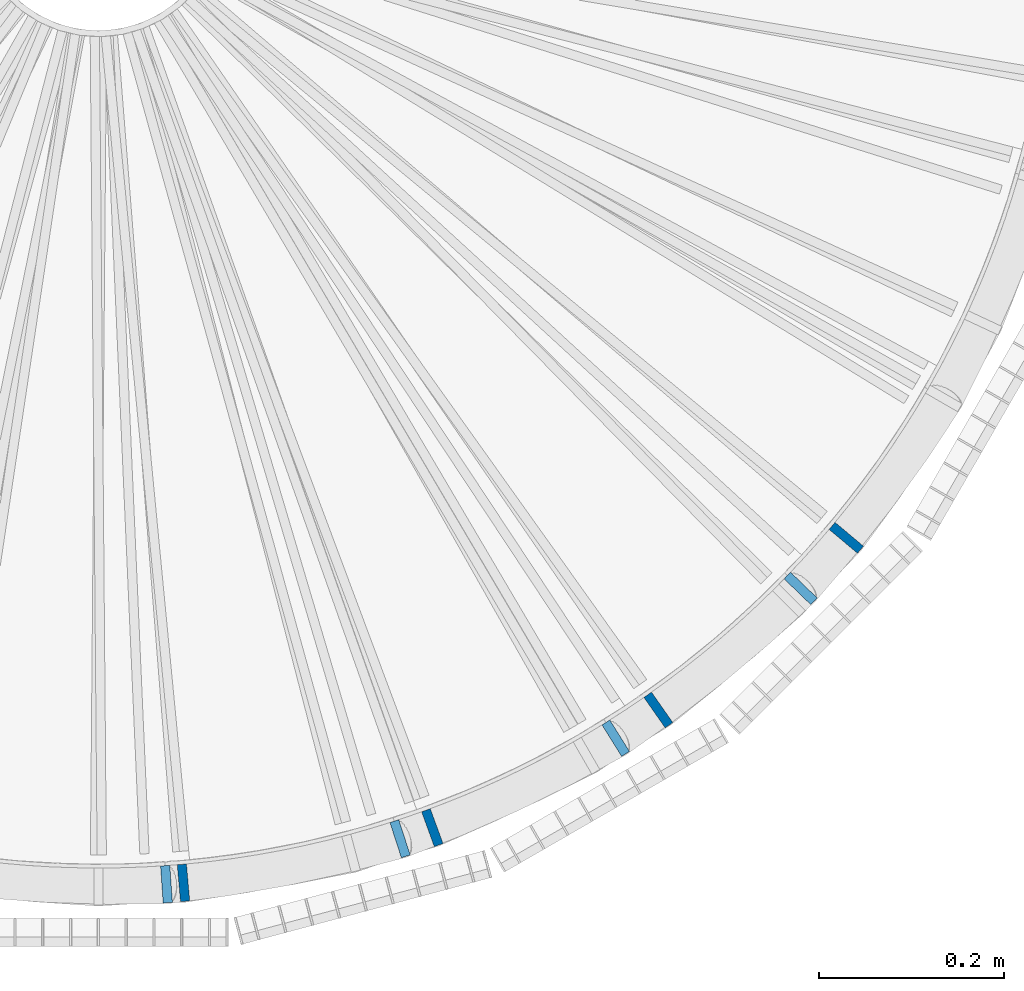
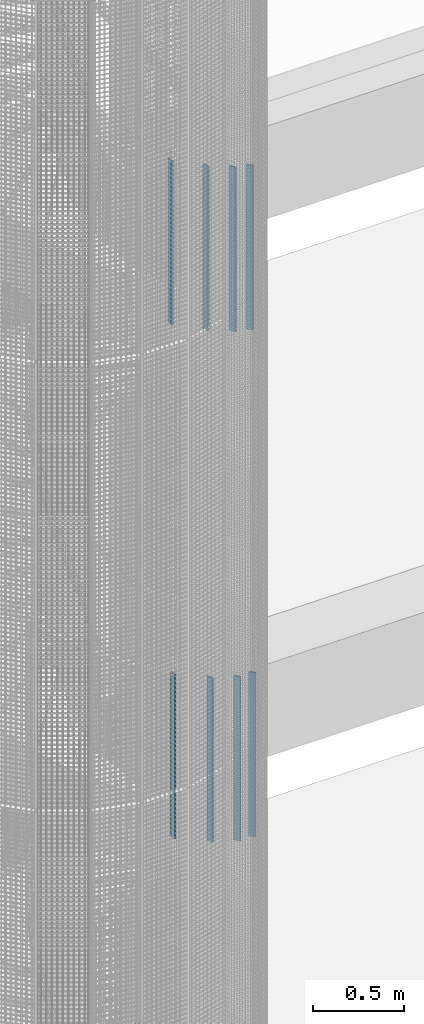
# One storey, part 41 of 1183: 8 columns, 8 elements without a shape of their own.
"""IFC2X3 building model written with IfcOpenShell, lengths in millimetres."""

from ifc_helpers import new_model, si_unit, frame, origin_with_axes, origin_2d_with_axis, place, context, subcontext, project, spatial, rectangle, extrude, material, type_object, element, aggregate, save


model = new_model("IFC2X3")

# Units and contexts
model_context = context("Model", 3, precision=1e-05, world=origin_with_axes())
body_context = subcontext(model_context, "Body", "Model", "MODEL_VIEW")
ifc_project = project(units=[si_unit("LENGTHUNIT", "METRE", prefix="MILLI"), si_unit("AREAUNIT", "SQUARE_METRE"), si_unit("VOLUMEUNIT", "CUBIC_METRE"), si_unit("MASSUNIT", "GRAM", prefix="KILO"), si_unit("TIMEUNIT", "SECOND"), si_unit("PLANEANGLEUNIT", "RADIAN"), si_unit("SOLIDANGLEUNIT", "STERADIAN"), si_unit("THERMODYNAMICTEMPERATUREUNIT", "DEGREE_CELSIUS"), si_unit("LUMINOUSINTENSITYUNIT", "LUMEN")], contexts=[model_context])

# Site, building, storey
site_placement = place(None, origin_with_axes())
site = spatial("IfcSite", under=ifc_project, at=site_placement, Name="Undefined", CompositionType="ELEMENT")
building_placement = place(site_placement, origin_with_axes())
building = spatial("IfcBuilding", under=site, at=building_placement, Name="Undefined", CompositionType="ELEMENT")
storey_placement = place(building_placement, origin_with_axes())
storey = spatial("IfcBuildingStorey", under=building, at=storey_placement, Name="Undefined", CompositionType="ELEMENT", Elevation=0.0)

# Assembly, column
assembly_1_placement = place(storey_placement, origin_with_axes())
assembly_1 = element("IfcElementAssembly", 1, at=assembly_1_placement, inside=storey, Name="MONTANT", AssemblyPlace="NOTDEFINED", PredefinedType="NOTDEFINED")
ifc_material = material(Name="STEEL/S235JR")
column_type = type_object("IfcColumnType", Name="PL10*40", PredefinedType="NOTDEFINED")
column_1_placement = place(assembly_1_placement, frame((22358.1841495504, -732.169922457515, 14629.12), z_axis=(0.0, 0.0, 1.0), x_axis=(-0.719339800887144, 0.694658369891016, 0.0)))
column_1 = element("IfcColumn", 2, at=column_1_placement, type_object=column_type, material=ifc_material, Name="MONTANT", context=body_context, shape_type="SweptSolid", body=[
    extrude(rectangle(XDim=10.0, YDim=40.0, at=origin_2d_with_axis()), frame((0.0, 0.0, 1100.0), z_axis=(0.0, 0.0, -1.0), x_axis=(0.0, 1.0, 0.0)), (0.0, 0.0, 1.0), 1100.0),
])
aggregate(assembly_1, [column_1])

assembly_2_placement = place(storey_placement, origin_with_axes())
assembly_2 = element("IfcElementAssembly", 3, at=assembly_2_placement, inside=storey, Name="MONTANT", AssemblyPlace="NOTDEFINED", PredefinedType="NOTDEFINED")
column_2_placement = place(assembly_2_placement, frame((21925.7039120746, -1002.41356818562, 14942.16), z_axis=(0.0, 0.0, 1.0), x_axis=(-0.30901699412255, 0.951056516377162, 0.0)))
column_2 = element("IfcColumn", 4, at=column_2_placement, type_object=column_type, material=ifc_material, Name="MONTANT", context=body_context, shape_type="SweptSolid", body=[
    extrude(rectangle(XDim=10.0, YDim=40.0, at=origin_2d_with_axis()), frame((0.0, 0.0, 1100.0), z_axis=(0.0, 0.0, -1.0), x_axis=(0.0, 1.0, 0.0)), (0.0, 0.0, 1.0), 1100.0),
])
aggregate(assembly_2, [column_2])

assembly_3_placement = place(storey_placement, origin_with_axes())
assembly_3 = element("IfcElementAssembly", 5, at=assembly_3_placement, inside=storey, Name="MONTANT", AssemblyPlace="NOTDEFINED", PredefinedType="NOTDEFINED")
column_3_placement = place(assembly_3_placement, frame((22158.5349044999, -893.842693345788, 14785.64), z_axis=(0.0, 0.0, 1.0), x_axis=(-0.529919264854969, 0.848048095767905, 0.0)))
column_3 = element("IfcColumn", 6, at=column_3_placement, type_object=column_type, material=ifc_material, Name="MONTANT", context=body_context, shape_type="SweptSolid", body=[
    extrude(rectangle(XDim=10.0, YDim=40.0, at=origin_2d_with_axis()), frame((0.0, 0.0, 1100.0), z_axis=(0.0, 0.0, -1.0), x_axis=(0.0, 1.0, 0.0)), (0.0, 0.0, 1.0), 1100.0),
])
aggregate(assembly_3, [column_3])

assembly_4_placement = place(storey_placement, origin_with_axes())
assembly_4 = element("IfcElementAssembly", 7, at=assembly_4_placement, inside=storey, Name="MONTANT", AssemblyPlace="NOTDEFINED", PredefinedType="NOTDEFINED")
column_4_placement = place(assembly_4_placement, frame((21673.523323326, -1051.43250896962, 15098.68), z_axis=(0.0, 0.0, 1.0), x_axis=(-0.0697564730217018, 0.997564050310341, 0.0)))
column_4 = element("IfcColumn", 8, at=column_4_placement, type_object=column_type, material=ifc_material, Name="MONTANT", context=body_context, shape_type="SweptSolid", body=[
    extrude(rectangle(XDim=10.0, YDim=40.0, at=origin_2d_with_axis()), frame((0.0, 0.0, 1100.0), z_axis=(0.0, 0.0, -1.0), x_axis=(0.0, 1.0, 0.0)), (0.0, 0.0, 1.0), 1100.0),
])
aggregate(assembly_4, [column_4])

assembly_5_placement = place(storey_placement, origin_with_axes())
assembly_5 = element("IfcElementAssembly", 9, at=assembly_5_placement, inside=storey, Name="MONTANT", AssemblyPlace="NOTDEFINED", PredefinedType="NOTDEFINED")
column_5_placement = place(assembly_5_placement, frame((22204.5495639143, -863.386254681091, 11342.16), z_axis=(0.0, 0.0, 1.0), x_axis=(-0.573576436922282, 0.819152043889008, 0.0)))
column_5 = element("IfcColumn", 10, at=column_5_placement, type_object=column_type, material=ifc_material, Name="MONTANT", context=body_context, shape_type="SweptSolid", body=[
    extrude(rectangle(XDim=10.0, YDim=40.0, at=origin_2d_with_axis()), frame((0.0, 0.0, 1100.0), z_axis=(0.0, 0.0, -1.0), x_axis=(0.0, 1.0, 0.0)), (0.0, 0.0, 1.0), 1100.0),
])
aggregate(assembly_5, [column_5])

assembly_6_placement = place(storey_placement, origin_with_axes())
assembly_6 = element("IfcElementAssembly", 11, at=assembly_6_placement, inside=storey, Name="MONTANT", AssemblyPlace="NOTDEFINED", PredefinedType="NOTDEFINED")
column_6_placement = place(assembly_6_placement, frame((22407.4108430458, -677.498140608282, 11185.64), z_axis=(0.0, 0.0, 1.0), x_axis=(-0.766044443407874, 0.642787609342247, 0.0)))
column_6 = element("IfcColumn", 12, at=column_6_placement, type_object=column_type, material=ifc_material, Name="MONTANT", context=body_context, shape_type="SweptSolid", body=[
    extrude(rectangle(XDim=10.0, YDim=40.0, at=origin_2d_with_axis()), frame((0.0, 0.0, 1100.0), z_axis=(0.0, 0.0, -1.0), x_axis=(0.0, 1.0, 0.0)), (0.0, 0.0, 1.0), 1100.0),
])
aggregate(assembly_6, [column_6])

assembly_7_placement = place(storey_placement, origin_with_axes())
assembly_7 = element("IfcElementAssembly", 13, at=assembly_7_placement, inside=storey, Name="MONTANT", AssemblyPlace="NOTDEFINED", PredefinedType="NOTDEFINED")
column_7_placement = place(assembly_7_placement, frame((21960.4892310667, -990.436022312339, 11498.68), z_axis=(0.0, 0.0, 1.0), x_axis=(-0.342020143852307, 0.939692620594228, 0.0)))
column_7 = element("IfcColumn", 14, at=column_7_placement, type_object=column_type, material=ifc_material, Name="MONTANT", context=body_context, shape_type="SweptSolid", body=[
    extrude(rectangle(XDim=10.0, YDim=40.0, at=origin_2d_with_axis()), frame((0.0, 0.0, 1100.0), z_axis=(0.0, 0.0, -1.0), x_axis=(0.0, 1.0, 0.0)), (0.0, 0.0, 1.0), 1100.0),
])
aggregate(assembly_7, [column_7])

assembly_8_placement = place(storey_placement, origin_with_axes())
assembly_8 = element("IfcElementAssembly", 15, at=assembly_8_placement, inside=storey, Name="MONTANT", AssemblyPlace="NOTDEFINED", PredefinedType="NOTDEFINED")
column_8_placement = place(assembly_8_placement, frame((21691.8621528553, -1049.98921178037, 11655.2), z_axis=(0.0, 0.0, 1.0), x_axis=(-0.0871557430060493, 0.996194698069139, 0.0)))
column_8 = element("IfcColumn", 16, at=column_8_placement, type_object=column_type, material=ifc_material, Name="MONTANT", context=body_context, shape_type="SweptSolid", body=[
    extrude(rectangle(XDim=10.0, YDim=40.0, at=origin_2d_with_axis()), frame((0.0, 0.0, 1100.0), z_axis=(0.0, 0.0, -1.0), x_axis=(0.0, 1.0, 0.0)), (0.0, 0.0, 1.0), 1100.0),
])
aggregate(assembly_8, [column_8])

save(model, "model.ifc")
